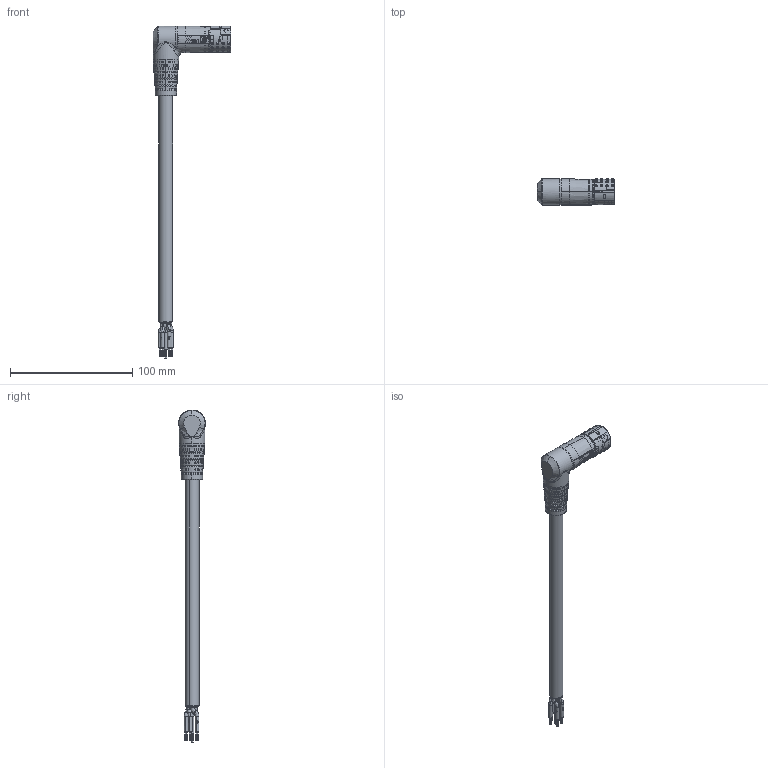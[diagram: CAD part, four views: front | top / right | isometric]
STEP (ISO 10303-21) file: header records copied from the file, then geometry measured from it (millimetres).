
FILE_DESCRIPTION (( 'STEP AP214' ), '1' );
FILE_NAME ('W-TEC 15K GLATT-BU-90°L 6x.STEP', '2021-05-25T14:28:44', ( '' ), ( '' ), 'SwSTEP 2.0', 'SolidWorks 2021', '' );
FILE_SCHEMA (( 'AUTOMOTIVE_DESIGN' ));
Length unit declared in the file: millimetre
Products named in the file (1): W-TEC 15K GLATT-BU-90袂 6x
Bounding box: 63.82 x 21.86 x 271.99 mm (x, y, z)
Surface area: 20870.1 mm2 (no closed solid volume)
Topology: 0 solids, 11 shells, 2168 faces, 5232 edges, 3414 vertices
Faces by surface type: cylinder 922, plane 689, bspline 511, cone 43, torus 3
Entity records: 119894 total; most frequent: CARTESIAN_POINT 48501, ORIENTED_EDGE 10203, DIRECTION 9182, EDGE_CURVE 5161, AXIS2_PLACEMENT_3D 3787, VERTEX_POINT 3414, EDGE_LOOP 2589, UNCERTAINTY_MEASURE_WITH_UNIT 2171
